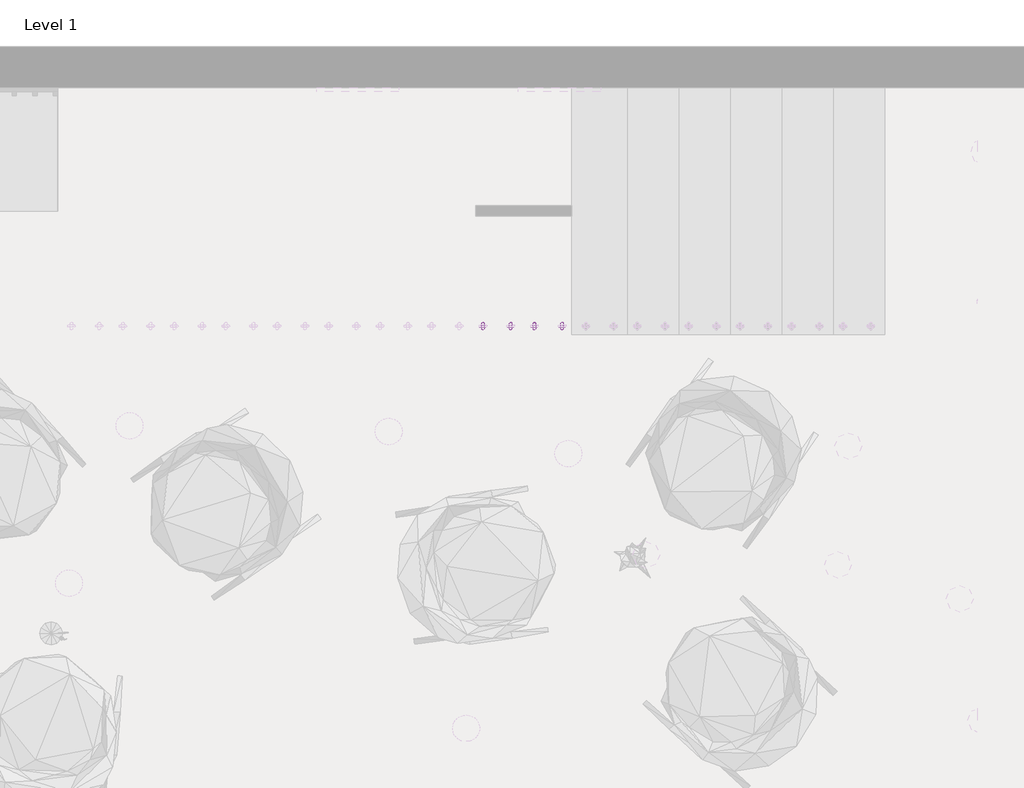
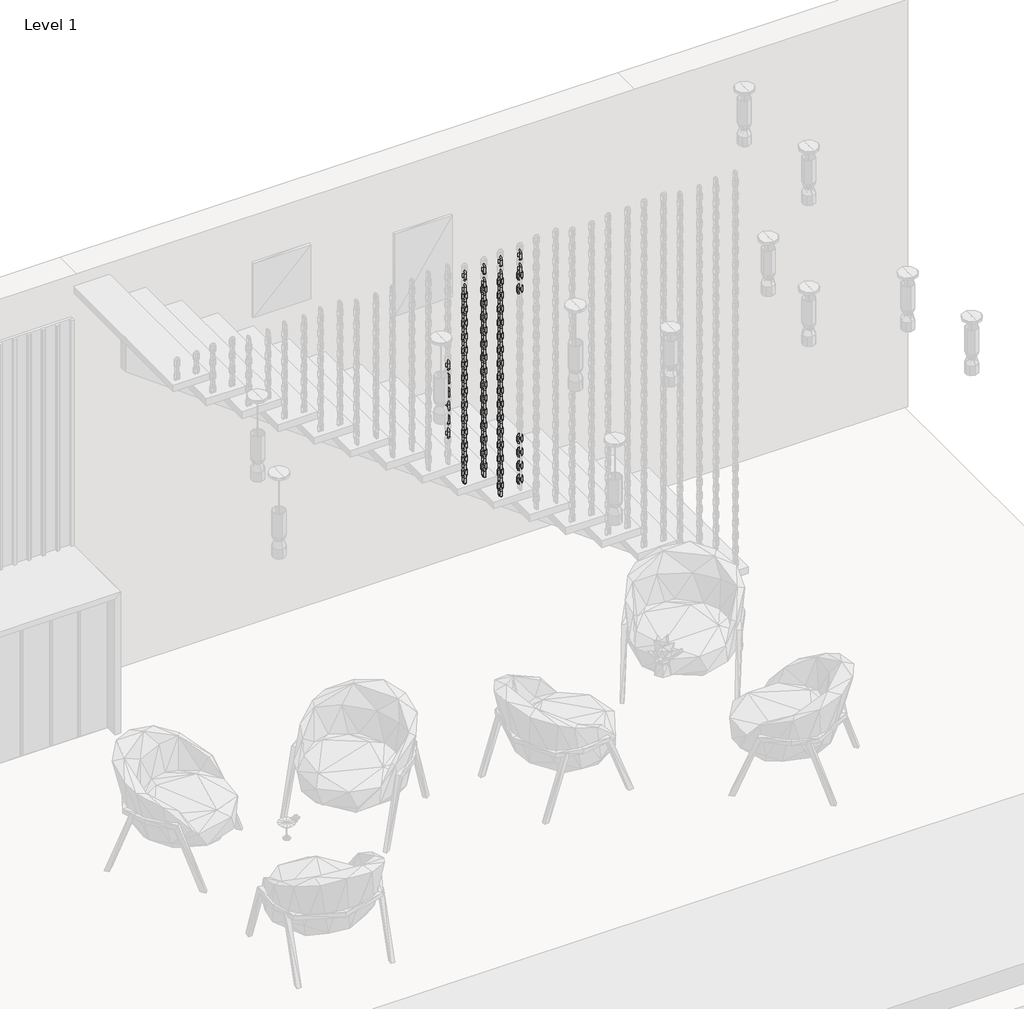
# One storey, part 7 of 12: 108 proxies.
"""IFC4 building model written with IfcOpenShell, lengths in millimetres."""

from ifc_helpers import new_model, si_unit, origin, place, context, project, spatial, transform, mapped, element, save
from components import family1_family1_50133a43, family1_family1_d3af85bb

model = new_model("IFC4")

# Units and contexts
model_context = context("Model", 3, world=origin())
ifc_project = project(units=[si_unit("LENGTHUNIT", "METRE", prefix="MILLI")], contexts=[model_context])

# Site, building, storey
site = spatial("IfcSite", under=ifc_project)
building = spatial("IfcBuilding", under=site)
storey = spatial("IfcBuildingStorey", under=building, Name="Level 1", Elevation=0.0)

# Proxies
placement = place(None, origin())
family1_family1_shape = family1_family1_50133a43(model_context)
element("IfcBuildingElementProxy", 1, Name="Family1 : Family1", ObjectType="Family1 : Family1", at=placement, inside=storey, context=model_context, shape_type="MappedRepresentation", body=[
    mapped(family1_family1_shape, transform((13500.1232124, 1139.760891, 1609.3036265), x_axis=(-0.0331561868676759, 0.0, 0.9994501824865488), y_axis=(-0.9994501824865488, 0.0, -0.0331561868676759), z_axis=(0.0, -1.0, 0.0))),
])
element("IfcBuildingElementProxy", 2, Name="Family1 : Family1", ObjectType="Family1 : Family1", at=placement, inside=storey, context=model_context, shape_type="MappedRepresentation", body=[
    mapped(family1_family1_shape, transform((13500.1232124, 1139.760891, 1709.3036265), x_axis=(-0.0331561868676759, 0.0, 0.9994501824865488), y_axis=(-0.9994501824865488, 0.0, -0.0331561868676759), z_axis=(0.0, -1.0, 0.0))),
])
element("IfcBuildingElementProxy", 3, Name="Family1 : Family1", ObjectType="Family1 : Family1", at=placement, inside=storey, context=model_context, shape_type="MappedRepresentation", body=[
    mapped(family1_family1_shape, transform((13365.1232124, 1139.760891, 409.3036265), x_axis=(-0.0331561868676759, 0.0, 0.9994501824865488), y_axis=(-0.9994501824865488, 0.0, -0.0331561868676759), z_axis=(0.0, -1.0, 0.0))),
])
element("IfcBuildingElementProxy", 4, Name="Family1 : Family1", ObjectType="Family1 : Family1", at=placement, inside=storey, context=model_context, shape_type="MappedRepresentation", body=[
    mapped(family1_family1_shape, transform((13365.1232124, 1139.760891, 509.3036265), x_axis=(-0.0331561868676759, 0.0, 0.9994501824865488), y_axis=(-0.9994501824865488, 0.0, -0.0331561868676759), z_axis=(0.0, -1.0, 0.0))),
])
element("IfcBuildingElementProxy", 5, Name="Family1 : Family1", ObjectType="Family1 : Family1", at=placement, inside=storey, context=model_context, shape_type="MappedRepresentation", body=[
    mapped(family1_family1_shape, transform((13365.1232124, 1139.760891, 609.3036265), x_axis=(-0.0331561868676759, 0.0, 0.9994501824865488), y_axis=(-0.9994501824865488, 0.0, -0.0331561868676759), z_axis=(0.0, -1.0, 0.0))),
])
element("IfcBuildingElementProxy", 6, Name="Family1 : Family1", ObjectType="Family1 : Family1", at=placement, inside=storey, context=model_context, shape_type="MappedRepresentation", body=[
    mapped(family1_family1_shape, transform((13365.1232124, 1139.760891, 709.3036265), x_axis=(-0.0331561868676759, 0.0, 0.9994501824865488), y_axis=(-0.9994501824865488, 0.0, -0.0331561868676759), z_axis=(0.0, -1.0, 0.0))),
])
element("IfcBuildingElementProxy", 7, Name="Family1 : Family1", ObjectType="Family1 : Family1", at=placement, inside=storey, context=model_context, shape_type="MappedRepresentation", body=[
    mapped(family1_family1_shape, transform((13365.1232124, 1139.760891, 809.3036265), x_axis=(-0.0331561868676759, 0.0, 0.9994501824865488), y_axis=(-0.9994501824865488, 0.0, -0.0331561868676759), z_axis=(0.0, -1.0, 0.0))),
])
element("IfcBuildingElementProxy", 8, Name="Family1 : Family1", ObjectType="Family1 : Family1", at=placement, inside=storey, context=model_context, shape_type="MappedRepresentation", body=[
    mapped(family1_family1_shape, transform((13365.1232124, 1139.760891, 909.3036265), x_axis=(-0.0331561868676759, 0.0, 0.9994501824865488), y_axis=(-0.9994501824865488, 0.0, -0.0331561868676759), z_axis=(0.0, -1.0, 0.0))),
])
element("IfcBuildingElementProxy", 9, Name="Family1 : Family1", ObjectType="Family1 : Family1", at=placement, inside=storey, context=model_context, shape_type="MappedRepresentation", body=[
    mapped(family1_family1_shape, transform((13365.1232124, 1139.760891, 1009.3036265), x_axis=(-0.0331561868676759, 0.0, 0.9994501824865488), y_axis=(-0.9994501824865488, 0.0, -0.0331561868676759), z_axis=(0.0, -1.0, 0.0))),
])
element("IfcBuildingElementProxy", 10, Name="Family1 : Family1", ObjectType="Family1 : Family1", at=placement, inside=storey, context=model_context, shape_type="MappedRepresentation", body=[
    mapped(family1_family1_shape, transform((13365.1232124, 1139.760891, 1109.3036265), x_axis=(-0.03315618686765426, 0.0, 0.9994501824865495), y_axis=(-0.9994501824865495, 0.0, -0.03315618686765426), z_axis=(0.0, -1.0, 0.0))),
])
element("IfcBuildingElementProxy", 11, Name="Family1 : Family1", ObjectType="Family1 : Family1", at=placement, inside=storey, context=model_context, shape_type="MappedRepresentation", body=[
    mapped(family1_family1_shape, transform((13365.1232124, 1139.760891, 1209.3036265), x_axis=(-0.0331561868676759, 0.0, 0.9994501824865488), y_axis=(-0.9994501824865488, 0.0, -0.0331561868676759), z_axis=(0.0, -1.0, 0.0))),
])
element("IfcBuildingElementProxy", 12, Name="Family1 : Family1", ObjectType="Family1 : Family1", at=placement, inside=storey, context=model_context, shape_type="MappedRepresentation", body=[
    mapped(family1_family1_shape, transform((13365.1232124, 1139.760891, 1309.3036265), x_axis=(-0.0331561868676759, 0.0, 0.9994501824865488), y_axis=(-0.9994501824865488, 0.0, -0.0331561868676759), z_axis=(0.0, -1.0, 0.0))),
])
element("IfcBuildingElementProxy", 13, Name="Family1 : Family1", ObjectType="Family1 : Family1", at=placement, inside=storey, context=model_context, shape_type="MappedRepresentation", body=[
    mapped(family1_family1_shape, transform((13365.1232124, 1139.760891, 309.3036265), x_axis=(-0.0331561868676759, 0.0, 0.9994501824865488), y_axis=(-0.9994501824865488, 0.0, -0.0331561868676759), z_axis=(0.0, -1.0, 0.0))),
])
element("IfcBuildingElementProxy", 14, Name="Family1 : Family1", ObjectType="Family1 : Family1", at=placement, inside=storey, context=model_context, shape_type="MappedRepresentation", body=[
    mapped(family1_family1_shape, transform((13365.1232124, 1139.760891, 209.3036265), x_axis=(-0.03315618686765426, 0.0, 0.9994501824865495), y_axis=(-0.9994501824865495, 0.0, -0.03315618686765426), z_axis=(0.0, -1.0, 0.0))),
])
element("IfcBuildingElementProxy", 15, Name="Family1 : Family1", ObjectType="Family1 : Family1", at=placement, inside=storey, context=model_context, shape_type="MappedRepresentation", body=[
    mapped(family1_family1_shape, transform((13365.1232124, 1139.760891, 109.3036265), x_axis=(-0.0331561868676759, 0.0, 0.9994501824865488), y_axis=(-0.9994501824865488, 0.0, -0.0331561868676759), z_axis=(0.0, -1.0, 0.0))),
])
element("IfcBuildingElementProxy", 16, Name="Family1 : Family1", ObjectType="Family1 : Family1", at=placement, inside=storey, context=model_context, shape_type="MappedRepresentation", body=[
    mapped(family1_family1_shape, transform((13365.1232124, 1139.760891, 9.3036265), x_axis=(-0.0331561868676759, 0.0, 0.9994501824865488), y_axis=(-0.9994501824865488, 0.0, -0.0331561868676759), z_axis=(0.0, -1.0, 0.0))),
])
element("IfcBuildingElementProxy", 17, Name="Family1 : Family1", ObjectType="Family1 : Family1", at=placement, inside=storey, context=model_context, shape_type="MappedRepresentation", body=[
    mapped(family1_family1_shape, transform((13365.1232124, 1139.760891, 1409.3036265), x_axis=(-0.0331561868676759, 0.0, 0.9994501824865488), y_axis=(-0.9994501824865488, 0.0, -0.0331561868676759), z_axis=(0.0, -1.0, 0.0))),
])
element("IfcBuildingElementProxy", 18, Name="Family1 : Family1", ObjectType="Family1 : Family1", at=placement, inside=storey, context=model_context, shape_type="MappedRepresentation", body=[
    mapped(family1_family1_shape, transform((13365.1232124, 1139.760891, 1509.3036265), x_axis=(-0.0331561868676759, 0.0, 0.9994501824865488), y_axis=(-0.9994501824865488, 0.0, -0.0331561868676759), z_axis=(0.0, -1.0, 0.0))),
])
element("IfcBuildingElementProxy", 19, Name="Family1 : Family1", ObjectType="Family1 : Family1", at=placement, inside=storey, context=model_context, shape_type="MappedRepresentation", body=[
    mapped(family1_family1_shape, transform((13365.1232124, 1139.760891, 1609.3036265), x_axis=(-0.0331561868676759, 0.0, 0.9994501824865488), y_axis=(-0.9994501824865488, 0.0, -0.0331561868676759), z_axis=(0.0, -1.0, 0.0))),
])
element("IfcBuildingElementProxy", 20, Name="Family1 : Family1", ObjectType="Family1 : Family1", at=placement, inside=storey, context=model_context, shape_type="MappedRepresentation", body=[
    mapped(family1_family1_shape, transform((13365.1232124, 1139.760891, 1709.3036265), x_axis=(-0.0331561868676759, 0.0, 0.9994501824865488), y_axis=(-0.9994501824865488, 0.0, -0.0331561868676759), z_axis=(0.0, -1.0, 0.0))),
])
element("IfcBuildingElementProxy", 21, Name="Family1 : Family1", ObjectType="Family1 : Family1", at=placement, inside=storey, context=model_context, shape_type="MappedRepresentation", body=[
    mapped(family1_family1_shape, transform((13250.1232124, 1139.760891, 491.6565677), x_axis=(-0.033156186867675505, 0.0, 0.9994501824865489), y_axis=(-0.9994501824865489, 0.0, -0.033156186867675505), z_axis=(0.0, -1.0, 0.0))),
])
element("IfcBuildingElementProxy", 22, Name="Family1 : Family1", ObjectType="Family1 : Family1", at=placement, inside=storey, context=model_context, shape_type="MappedRepresentation", body=[
    mapped(family1_family1_shape, transform((13250.1232124, 1139.760891, 591.6565677), x_axis=(-0.033156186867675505, 0.0, 0.9994501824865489), y_axis=(-0.9994501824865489, 0.0, -0.033156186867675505), z_axis=(0.0, -1.0, 0.0))),
])
element("IfcBuildingElementProxy", 23, Name="Family1 : Family1", ObjectType="Family1 : Family1", at=placement, inside=storey, context=model_context, shape_type="MappedRepresentation", body=[
    mapped(family1_family1_shape, transform((13250.1232124, 1139.760891, 691.6565677), x_axis=(-0.033156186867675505, 0.0, 0.9994501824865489), y_axis=(-0.9994501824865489, 0.0, -0.033156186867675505), z_axis=(0.0, -1.0, 0.0))),
])
element("IfcBuildingElementProxy", 24, Name="Family1 : Family1", ObjectType="Family1 : Family1", at=placement, inside=storey, context=model_context, shape_type="MappedRepresentation", body=[
    mapped(family1_family1_shape, transform((13250.1232124, 1139.760891, 791.6565677), x_axis=(-0.033156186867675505, 0.0, 0.9994501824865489), y_axis=(-0.9994501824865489, 0.0, -0.033156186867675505), z_axis=(0.0, -1.0, 0.0))),
])
element("IfcBuildingElementProxy", 25, Name="Family1 : Family1", ObjectType="Family1 : Family1", at=placement, inside=storey, context=model_context, shape_type="MappedRepresentation", body=[
    mapped(family1_family1_shape, transform((13250.1232124, 1139.760891, 891.6565677), x_axis=(-0.033156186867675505, 0.0, 0.9994501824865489), y_axis=(-0.9994501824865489, 0.0, -0.033156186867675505), z_axis=(0.0, -1.0, 0.0))),
])
element("IfcBuildingElementProxy", 26, Name="Family1 : Family1", ObjectType="Family1 : Family1", at=placement, inside=storey, context=model_context, shape_type="MappedRepresentation", body=[
    mapped(family1_family1_shape, transform((13250.1232124, 1139.760891, 991.6565677), x_axis=(-0.03315618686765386, 0.0, 0.9994501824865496), y_axis=(-0.9994501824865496, 0.0, -0.03315618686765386), z_axis=(0.0, -1.0, 0.0))),
])
element("IfcBuildingElementProxy", 27, Name="Family1 : Family1", ObjectType="Family1 : Family1", at=placement, inside=storey, context=model_context, shape_type="MappedRepresentation", body=[
    mapped(family1_family1_shape, transform((13250.1232124, 1139.760891, 1091.6565677), x_axis=(-0.033156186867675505, 0.0, 0.9994501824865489), y_axis=(-0.9994501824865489, 0.0, -0.033156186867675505), z_axis=(0.0, -1.0, 0.0))),
])
element("IfcBuildingElementProxy", 28, Name="Family1 : Family1", ObjectType="Family1 : Family1", at=placement, inside=storey, context=model_context, shape_type="MappedRepresentation", body=[
    mapped(family1_family1_shape, transform((13250.1232124, 1139.760891, 1191.6565677), x_axis=(-0.033156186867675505, 0.0, 0.9994501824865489), y_axis=(-0.9994501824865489, 0.0, -0.033156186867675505), z_axis=(0.0, -1.0, 0.0))),
])
element("IfcBuildingElementProxy", 29, Name="Family1 : Family1", ObjectType="Family1 : Family1", at=placement, inside=storey, context=model_context, shape_type="MappedRepresentation", body=[
    mapped(family1_family1_shape, transform((13250.1232124, 1139.760891, 1291.6565677), x_axis=(-0.033156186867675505, 0.0, 0.9994501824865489), y_axis=(-0.9994501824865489, 0.0, -0.033156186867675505), z_axis=(0.0, -1.0, 0.0))),
])
element("IfcBuildingElementProxy", 30, Name="Family1 : Family1", ObjectType="Family1 : Family1", at=placement, inside=storey, context=model_context, shape_type="MappedRepresentation", body=[
    mapped(family1_family1_shape, transform((13250.1232124, 1139.760891, 1391.6565677), x_axis=(-0.033156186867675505, 0.0, 0.9994501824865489), y_axis=(-0.9994501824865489, 0.0, -0.033156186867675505), z_axis=(0.0, -1.0, 0.0))),
])
element("IfcBuildingElementProxy", 31, Name="Family1 : Family1", ObjectType="Family1 : Family1", at=placement, inside=storey, context=model_context, shape_type="MappedRepresentation", body=[
    mapped(family1_family1_shape, transform((13250.1232124, 1139.760891, 391.6565677), x_axis=(-0.033156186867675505, 0.0, 0.9994501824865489), y_axis=(-0.9994501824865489, 0.0, -0.033156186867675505), z_axis=(0.0, -1.0, 0.0))),
])
element("IfcBuildingElementProxy", 32, Name="Family1 : Family1", ObjectType="Family1 : Family1", at=placement, inside=storey, context=model_context, shape_type="MappedRepresentation", body=[
    mapped(family1_family1_shape, transform((13250.1232124, 1139.760891, 291.6565677), x_axis=(-0.033156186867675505, 0.0, 0.9994501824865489), y_axis=(-0.9994501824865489, 0.0, -0.033156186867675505), z_axis=(0.0, -1.0, 0.0))),
])
element("IfcBuildingElementProxy", 33, Name="Family1 : Family1", ObjectType="Family1 : Family1", at=placement, inside=storey, context=model_context, shape_type="MappedRepresentation", body=[
    mapped(family1_family1_shape, transform((13250.1232124, 1139.760891, 191.6565677), x_axis=(-0.033156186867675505, 0.0, 0.9994501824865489), y_axis=(-0.9994501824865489, 0.0, -0.033156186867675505), z_axis=(0.0, -1.0, 0.0))),
])
element("IfcBuildingElementProxy", 34, Name="Family1 : Family1", ObjectType="Family1 : Family1", at=placement, inside=storey, context=model_context, shape_type="MappedRepresentation", body=[
    mapped(family1_family1_shape, transform((13250.1232124, 1139.760891, 1491.6565677), x_axis=(-0.033156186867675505, 0.0, 0.9994501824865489), y_axis=(-0.9994501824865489, 0.0, -0.033156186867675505), z_axis=(0.0, -1.0, 0.0))),
])
element("IfcBuildingElementProxy", 35, Name="Family1 : Family1", ObjectType="Family1 : Family1", at=placement, inside=storey, context=model_context, shape_type="MappedRepresentation", body=[
    mapped(family1_family1_shape, transform((13250.1232124, 1139.760891, 1591.6565677), x_axis=(-0.033156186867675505, 0.0, 0.9994501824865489), y_axis=(-0.9994501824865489, 0.0, -0.033156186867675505), z_axis=(0.0, -1.0, 0.0))),
])
element("IfcBuildingElementProxy", 36, Name="Family1 : Family1", ObjectType="Family1 : Family1", at=placement, inside=storey, context=model_context, shape_type="MappedRepresentation", body=[
    mapped(family1_family1_shape, transform((13250.1232124, 1139.760891, 1691.6565677), x_axis=(-0.033156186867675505, 0.0, 0.9994501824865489), y_axis=(-0.9994501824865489, 0.0, -0.033156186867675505), z_axis=(0.0, -1.0, 0.0))),
])
element("IfcBuildingElementProxy", 37, Name="Family1 : Family1", ObjectType="Family1 : Family1", at=placement, inside=storey, context=model_context, shape_type="MappedRepresentation", body=[
    mapped(family1_family1_shape, transform((13115.1232124, 1139.760891, 491.6565677), x_axis=(-0.033156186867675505, 0.0, 0.9994501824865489), y_axis=(-0.9994501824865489, 0.0, -0.033156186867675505), z_axis=(0.0, -1.0, 0.0))),
])
element("IfcBuildingElementProxy", 38, Name="Family1 : Family1", ObjectType="Family1 : Family1", at=placement, inside=storey, context=model_context, shape_type="MappedRepresentation", body=[
    mapped(family1_family1_shape, transform((13115.1232124, 1139.760891, 591.6565677), x_axis=(-0.033156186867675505, 0.0, 0.9994501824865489), y_axis=(-0.9994501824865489, 0.0, -0.033156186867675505), z_axis=(0.0, -1.0, 0.0))),
])
element("IfcBuildingElementProxy", 39, Name="Family1 : Family1", ObjectType="Family1 : Family1", at=placement, inside=storey, context=model_context, shape_type="MappedRepresentation", body=[
    mapped(family1_family1_shape, transform((13115.1232124, 1139.760891, 691.6565677), x_axis=(-0.033156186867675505, 0.0, 0.9994501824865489), y_axis=(-0.9994501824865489, 0.0, -0.033156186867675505), z_axis=(0.0, -1.0, 0.0))),
])
element("IfcBuildingElementProxy", 40, Name="Family1 : Family1", ObjectType="Family1 : Family1", at=placement, inside=storey, context=model_context, shape_type="MappedRepresentation", body=[
    mapped(family1_family1_shape, transform((13115.1232124, 1139.760891, 791.6565677), x_axis=(-0.033156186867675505, 0.0, 0.9994501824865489), y_axis=(-0.9994501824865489, 0.0, -0.033156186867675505), z_axis=(0.0, -1.0, 0.0))),
])
element("IfcBuildingElementProxy", 41, Name="Family1 : Family1", ObjectType="Family1 : Family1", at=placement, inside=storey, context=model_context, shape_type="MappedRepresentation", body=[
    mapped(family1_family1_shape, transform((13115.1232124, 1139.760891, 891.6565677), x_axis=(-0.033156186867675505, 0.0, 0.9994501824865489), y_axis=(-0.9994501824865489, 0.0, -0.033156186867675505), z_axis=(0.0, -1.0, 0.0))),
])
element("IfcBuildingElementProxy", 42, Name="Family1 : Family1", ObjectType="Family1 : Family1", at=placement, inside=storey, context=model_context, shape_type="MappedRepresentation", body=[
    mapped(family1_family1_shape, transform((13115.1232124, 1139.760891, 991.6565677), x_axis=(-0.03315618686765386, 0.0, 0.9994501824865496), y_axis=(-0.9994501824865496, 0.0, -0.03315618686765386), z_axis=(0.0, -1.0, 0.0))),
])
element("IfcBuildingElementProxy", 43, Name="Family1 : Family1", ObjectType="Family1 : Family1", at=placement, inside=storey, context=model_context, shape_type="MappedRepresentation", body=[
    mapped(family1_family1_shape, transform((13115.1232124, 1139.760891, 1091.6565677), x_axis=(-0.033156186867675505, 0.0, 0.9994501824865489), y_axis=(-0.9994501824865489, 0.0, -0.033156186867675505), z_axis=(0.0, -1.0, 0.0))),
])
element("IfcBuildingElementProxy", 44, Name="Family1 : Family1", ObjectType="Family1 : Family1", at=placement, inside=storey, context=model_context, shape_type="MappedRepresentation", body=[
    mapped(family1_family1_shape, transform((13115.1232124, 1139.760891, 1191.6565677), x_axis=(-0.033156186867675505, 0.0, 0.9994501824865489), y_axis=(-0.9994501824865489, 0.0, -0.033156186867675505), z_axis=(0.0, -1.0, 0.0))),
])
element("IfcBuildingElementProxy", 45, Name="Family1 : Family1", ObjectType="Family1 : Family1", at=placement, inside=storey, context=model_context, shape_type="MappedRepresentation", body=[
    mapped(family1_family1_shape, transform((13115.1232124, 1139.760891, 1291.6565677), x_axis=(-0.033156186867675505, 0.0, 0.9994501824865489), y_axis=(-0.9994501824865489, 0.0, -0.033156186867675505), z_axis=(0.0, -1.0, 0.0))),
])
element("IfcBuildingElementProxy", 46, Name="Family1 : Family1", ObjectType="Family1 : Family1", at=placement, inside=storey, context=model_context, shape_type="MappedRepresentation", body=[
    mapped(family1_family1_shape, transform((13115.1232124, 1139.760891, 1391.6565677), x_axis=(-0.033156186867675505, 0.0, 0.9994501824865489), y_axis=(-0.9994501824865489, 0.0, -0.033156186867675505), z_axis=(0.0, -1.0, 0.0))),
])
element("IfcBuildingElementProxy", 47, Name="Family1 : Family1", ObjectType="Family1 : Family1", at=placement, inside=storey, context=model_context, shape_type="MappedRepresentation", body=[
    mapped(family1_family1_shape, transform((13115.1232124, 1139.760891, 391.6565677), x_axis=(-0.033156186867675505, 0.0, 0.9994501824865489), y_axis=(-0.9994501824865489, 0.0, -0.033156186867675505), z_axis=(0.0, -1.0, 0.0))),
])
element("IfcBuildingElementProxy", 48, Name="Family1 : Family1", ObjectType="Family1 : Family1", at=placement, inside=storey, context=model_context, shape_type="MappedRepresentation", body=[
    mapped(family1_family1_shape, transform((13115.1232124, 1139.760891, 291.6565677), x_axis=(-0.033156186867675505, 0.0, 0.9994501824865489), y_axis=(-0.9994501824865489, 0.0, -0.033156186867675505), z_axis=(0.0, -1.0, 0.0))),
])
element("IfcBuildingElementProxy", 49, Name="Family1 : Family1", ObjectType="Family1 : Family1", at=placement, inside=storey, context=model_context, shape_type="MappedRepresentation", body=[
    mapped(family1_family1_shape, transform((13115.1232124, 1139.760891, 191.6565677), x_axis=(-0.033156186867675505, 0.0, 0.9994501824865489), y_axis=(-0.9994501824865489, 0.0, -0.033156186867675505), z_axis=(0.0, -1.0, 0.0))),
])
element("IfcBuildingElementProxy", 50, Name="Family1 : Family1", ObjectType="Family1 : Family1", at=placement, inside=storey, context=model_context, shape_type="MappedRepresentation", body=[
    mapped(family1_family1_shape, transform((13115.1232124, 1139.760891, 1491.6565677), x_axis=(-0.033156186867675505, 0.0, 0.9994501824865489), y_axis=(-0.9994501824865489, 0.0, -0.033156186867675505), z_axis=(0.0, -1.0, 0.0))),
])
element("IfcBuildingElementProxy", 51, Name="Family1 : Family1", ObjectType="Family1 : Family1", at=placement, inside=storey, context=model_context, shape_type="MappedRepresentation", body=[
    mapped(family1_family1_shape, transform((13115.1232124, 1139.760891, 1591.6565677), x_axis=(-0.033156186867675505, 0.0, 0.9994501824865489), y_axis=(-0.9994501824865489, 0.0, -0.033156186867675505), z_axis=(0.0, -1.0, 0.0))),
])
element("IfcBuildingElementProxy", 52, Name="Family1 : Family1", ObjectType="Family1 : Family1", at=placement, inside=storey, context=model_context, shape_type="MappedRepresentation", body=[
    mapped(family1_family1_shape, transform((13115.1232124, 1139.760891, 1691.6565677), x_axis=(-0.033156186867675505, 0.0, 0.9994501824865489), y_axis=(-0.9994501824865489, 0.0, -0.033156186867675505), z_axis=(0.0, -1.0, 0.0))),
])
element("IfcBuildingElementProxy", 53, Name="Family1 : Family1", ObjectType="Family1 : Family1", at=placement, inside=storey, context=model_context, shape_type="MappedRepresentation", body=[
    mapped(family1_family1_shape, transform((13000.1232124, 1139.760891, 574.0095089), x_axis=(-0.03315618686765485, 0.0, 0.9994501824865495), y_axis=(-0.9994501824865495, 0.0, -0.03315618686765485), z_axis=(0.0, -1.0, 0.0))),
])
element("IfcBuildingElementProxy", 54, Name="Family1 : Family1", ObjectType="Family1 : Family1", at=placement, inside=storey, context=model_context, shape_type="MappedRepresentation", body=[
    mapped(family1_family1_shape, transform((13000.1232124, 1139.760891, 674.0095089), x_axis=(-0.03315618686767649, 0.0, 0.9994501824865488), y_axis=(-0.9994501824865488, 0.0, -0.03315618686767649), z_axis=(0.0, -1.0, 0.0))),
])
element("IfcBuildingElementProxy", 55, Name="Family1 : Family1", ObjectType="Family1 : Family1", at=placement, inside=storey, context=model_context, shape_type="MappedRepresentation", body=[
    mapped(family1_family1_shape, transform((13000.1232124, 1139.760891, 774.0095089), x_axis=(-0.03315618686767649, 0.0, 0.9994501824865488), y_axis=(-0.9994501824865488, 0.0, -0.03315618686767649), z_axis=(0.0, -1.0, 0.0))),
])
element("IfcBuildingElementProxy", 56, Name="Family1 : Family1", ObjectType="Family1 : Family1", at=placement, inside=storey, context=model_context, shape_type="MappedRepresentation", body=[
    mapped(family1_family1_shape, transform((13000.1232124, 1139.760891, 874.0095089), x_axis=(-0.03315618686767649, 0.0, 0.9994501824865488), y_axis=(-0.9994501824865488, 0.0, -0.03315618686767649), z_axis=(0.0, -1.0, 0.0))),
])
element("IfcBuildingElementProxy", 57, Name="Family1 : Family1", ObjectType="Family1 : Family1", at=placement, inside=storey, context=model_context, shape_type="MappedRepresentation", body=[
    mapped(family1_family1_shape, transform((13000.1232124, 1139.760891, 974.0095089), x_axis=(-0.03315618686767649, 0.0, 0.9994501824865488), y_axis=(-0.9994501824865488, 0.0, -0.03315618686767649), z_axis=(0.0, -1.0, 0.0))),
])
element("IfcBuildingElementProxy", 58, Name="Family1 : Family1", ObjectType="Family1 : Family1", at=placement, inside=storey, context=model_context, shape_type="MappedRepresentation", body=[
    mapped(family1_family1_shape, transform((13000.1232124, 1139.760891, 1074.0095089), x_axis=(-0.03315618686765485, 0.0, 0.9994501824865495), y_axis=(-0.9994501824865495, 0.0, -0.03315618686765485), z_axis=(0.0, -1.0, 0.0))),
])
family1_family1_2_shape = family1_family1_d3af85bb(model_context)
element("IfcBuildingElementProxy", 59, Name="Family1 : Family1", ObjectType="Family1 : Family1", at=placement, inside=storey, context=model_context, shape_type="MappedRepresentation", body=[
    mapped(family1_family1_2_shape, transform((13500.1232124, 1139.760891, 359.3036265), x_axis=(-0.0331561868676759, 0.0, 0.9994501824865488), y_axis=(-0.9994501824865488, 0.0, -0.0331561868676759), z_axis=(0.0, -1.0, 0.0))),
])
element("IfcBuildingElementProxy", 60, Name="Family1 : Family1", ObjectType="Family1 : Family1", at=placement, inside=storey, context=model_context, shape_type="MappedRepresentation", body=[
    mapped(family1_family1_2_shape, transform((13500.1232124, 1139.760891, 259.3036265), x_axis=(-0.0331561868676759, 0.0, 0.9994501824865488), y_axis=(-0.9994501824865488, 0.0, -0.0331561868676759), z_axis=(0.0, -1.0, 0.0))),
])
element("IfcBuildingElementProxy", 61, Name="Family1 : Family1", ObjectType="Family1 : Family1", at=placement, inside=storey, context=model_context, shape_type="MappedRepresentation", body=[
    mapped(family1_family1_2_shape, transform((13500.1232124, 1139.760891, 159.3036265), x_axis=(-0.0331561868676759, 0.0, 0.9994501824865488), y_axis=(-0.9994501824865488, 0.0, -0.0331561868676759), z_axis=(0.0, -1.0, 0.0))),
])
element("IfcBuildingElementProxy", 62, Name="Family1 : Family1", ObjectType="Family1 : Family1", at=placement, inside=storey, context=model_context, shape_type="MappedRepresentation", body=[
    mapped(family1_family1_2_shape, transform((13500.1232124, 1139.760891, 59.3036265), x_axis=(-0.0331561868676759, 0.0, 0.9994501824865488), y_axis=(-0.9994501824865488, 0.0, -0.0331561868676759), z_axis=(0.0, -1.0, 0.0))),
])
element("IfcBuildingElementProxy", 63, Name="Family1 : Family1", ObjectType="Family1 : Family1", at=placement, inside=storey, context=model_context, shape_type="MappedRepresentation", body=[
    mapped(family1_family1_2_shape, transform((13500.1232124, 1139.760891, 1459.3036265), x_axis=(-0.0331561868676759, 0.0, 0.9994501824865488), y_axis=(-0.9994501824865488, 0.0, -0.0331561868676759), z_axis=(0.0, -1.0, 0.0))),
])
element("IfcBuildingElementProxy", 64, Name="Family1 : Family1", ObjectType="Family1 : Family1", at=placement, inside=storey, context=model_context, shape_type="MappedRepresentation", body=[
    mapped(family1_family1_2_shape, transform((13500.1232124, 1139.760891, 1559.3036265), x_axis=(-0.03315618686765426, 0.0, 0.9994501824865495), y_axis=(-0.9994501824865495, 0.0, -0.03315618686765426), z_axis=(0.0, -1.0, 0.0))),
])
element("IfcBuildingElementProxy", 65, Name="Family1 : Family1", ObjectType="Family1 : Family1", at=placement, inside=storey, context=model_context, shape_type="MappedRepresentation", body=[
    mapped(family1_family1_2_shape, transform((13365.1232124, 1139.760891, 459.3036265), x_axis=(-0.0331561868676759, 0.0, 0.9994501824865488), y_axis=(-0.9994501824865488, 0.0, -0.0331561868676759), z_axis=(0.0, -1.0, 0.0))),
])
element("IfcBuildingElementProxy", 66, Name="Family1 : Family1", ObjectType="Family1 : Family1", at=placement, inside=storey, context=model_context, shape_type="MappedRepresentation", body=[
    mapped(family1_family1_2_shape, transform((13365.1232124, 1139.760891, 559.3036265), x_axis=(-0.0331561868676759, 0.0, 0.9994501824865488), y_axis=(-0.9994501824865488, 0.0, -0.0331561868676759), z_axis=(0.0, -1.0, 0.0))),
])
element("IfcBuildingElementProxy", 67, Name="Family1 : Family1", ObjectType="Family1 : Family1", at=placement, inside=storey, context=model_context, shape_type="MappedRepresentation", body=[
    mapped(family1_family1_2_shape, transform((13365.1232124, 1139.760891, 659.3036265), x_axis=(-0.03315618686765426, 0.0, 0.9994501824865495), y_axis=(-0.9994501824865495, 0.0, -0.03315618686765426), z_axis=(0.0, -1.0, 0.0))),
])
element("IfcBuildingElementProxy", 68, Name="Family1 : Family1", ObjectType="Family1 : Family1", at=placement, inside=storey, context=model_context, shape_type="MappedRepresentation", body=[
    mapped(family1_family1_2_shape, transform((13365.1232124, 1139.760891, 759.3036265), x_axis=(-0.0331561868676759, 0.0, 0.9994501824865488), y_axis=(-0.9994501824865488, 0.0, -0.0331561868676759), z_axis=(0.0, -1.0, 0.0))),
])
element("IfcBuildingElementProxy", 69, Name="Family1 : Family1", ObjectType="Family1 : Family1", at=placement, inside=storey, context=model_context, shape_type="MappedRepresentation", body=[
    mapped(family1_family1_2_shape, transform((13365.1232124, 1139.760891, 859.3036265), x_axis=(-0.0331561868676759, 0.0, 0.9994501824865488), y_axis=(-0.9994501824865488, 0.0, -0.0331561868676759), z_axis=(0.0, -1.0, 0.0))),
])
element("IfcBuildingElementProxy", 70, Name="Family1 : Family1", ObjectType="Family1 : Family1", at=placement, inside=storey, context=model_context, shape_type="MappedRepresentation", body=[
    mapped(family1_family1_2_shape, transform((13365.1232124, 1139.760891, 959.3036265), x_axis=(-0.0331561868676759, 0.0, 0.9994501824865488), y_axis=(-0.9994501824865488, 0.0, -0.0331561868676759), z_axis=(0.0, -1.0, 0.0))),
])
element("IfcBuildingElementProxy", 71, Name="Family1 : Family1", ObjectType="Family1 : Family1", at=placement, inside=storey, context=model_context, shape_type="MappedRepresentation", body=[
    mapped(family1_family1_2_shape, transform((13365.1232124, 1139.760891, 1059.3036265), x_axis=(-0.0331561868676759, 0.0, 0.9994501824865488), y_axis=(-0.9994501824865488, 0.0, -0.0331561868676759), z_axis=(0.0, -1.0, 0.0))),
])
element("IfcBuildingElementProxy", 72, Name="Family1 : Family1", ObjectType="Family1 : Family1", at=placement, inside=storey, context=model_context, shape_type="MappedRepresentation", body=[
    mapped(family1_family1_2_shape, transform((13365.1232124, 1139.760891, 1159.3036265), x_axis=(-0.0331561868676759, 0.0, 0.9994501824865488), y_axis=(-0.9994501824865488, 0.0, -0.0331561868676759), z_axis=(0.0, -1.0, 0.0))),
])
element("IfcBuildingElementProxy", 73, Name="Family1 : Family1", ObjectType="Family1 : Family1", at=placement, inside=storey, context=model_context, shape_type="MappedRepresentation", body=[
    mapped(family1_family1_2_shape, transform((13365.1232124, 1139.760891, 1259.3036265), x_axis=(-0.0331561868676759, 0.0, 0.9994501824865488), y_axis=(-0.9994501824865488, 0.0, -0.0331561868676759), z_axis=(0.0, -1.0, 0.0))),
])
element("IfcBuildingElementProxy", 74, Name="Family1 : Family1", ObjectType="Family1 : Family1", at=placement, inside=storey, context=model_context, shape_type="MappedRepresentation", body=[
    mapped(family1_family1_2_shape, transform((13365.1232124, 1139.760891, 1359.3036265), x_axis=(-0.0331561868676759, 0.0, 0.9994501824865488), y_axis=(-0.9994501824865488, 0.0, -0.0331561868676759), z_axis=(0.0, -1.0, 0.0))),
])
element("IfcBuildingElementProxy", 75, Name="Family1 : Family1", ObjectType="Family1 : Family1", at=placement, inside=storey, context=model_context, shape_type="MappedRepresentation", body=[
    mapped(family1_family1_2_shape, transform((13365.1232124, 1139.760891, 359.3036265), x_axis=(-0.0331561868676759, 0.0, 0.9994501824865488), y_axis=(-0.9994501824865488, 0.0, -0.0331561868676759), z_axis=(0.0, -1.0, 0.0))),
])
element("IfcBuildingElementProxy", 76, Name="Family1 : Family1", ObjectType="Family1 : Family1", at=placement, inside=storey, context=model_context, shape_type="MappedRepresentation", body=[
    mapped(family1_family1_2_shape, transform((13365.1232124, 1139.760891, 259.3036265), x_axis=(-0.0331561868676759, 0.0, 0.9994501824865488), y_axis=(-0.9994501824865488, 0.0, -0.0331561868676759), z_axis=(0.0, -1.0, 0.0))),
])
element("IfcBuildingElementProxy", 77, Name="Family1 : Family1", ObjectType="Family1 : Family1", at=placement, inside=storey, context=model_context, shape_type="MappedRepresentation", body=[
    mapped(family1_family1_2_shape, transform((13365.1232124, 1139.760891, 159.3036265), x_axis=(-0.0331561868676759, 0.0, 0.9994501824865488), y_axis=(-0.9994501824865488, 0.0, -0.0331561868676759), z_axis=(0.0, -1.0, 0.0))),
])
element("IfcBuildingElementProxy", 78, Name="Family1 : Family1", ObjectType="Family1 : Family1", at=placement, inside=storey, context=model_context, shape_type="MappedRepresentation", body=[
    mapped(family1_family1_2_shape, transform((13365.1232124, 1139.760891, 59.3036265), x_axis=(-0.0331561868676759, 0.0, 0.9994501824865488), y_axis=(-0.9994501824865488, 0.0, -0.0331561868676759), z_axis=(0.0, -1.0, 0.0))),
])
element("IfcBuildingElementProxy", 79, Name="Family1 : Family1", ObjectType="Family1 : Family1", at=placement, inside=storey, context=model_context, shape_type="MappedRepresentation", body=[
    mapped(family1_family1_2_shape, transform((13365.1232124, 1139.760891, 1459.3036265), x_axis=(-0.0331561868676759, 0.0, 0.9994501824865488), y_axis=(-0.9994501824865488, 0.0, -0.0331561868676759), z_axis=(0.0, -1.0, 0.0))),
])
element("IfcBuildingElementProxy", 80, Name="Family1 : Family1", ObjectType="Family1 : Family1", at=placement, inside=storey, context=model_context, shape_type="MappedRepresentation", body=[
    mapped(family1_family1_2_shape, transform((13365.1232124, 1139.760891, 1559.3036265), x_axis=(-0.03315618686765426, 0.0, 0.9994501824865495), y_axis=(-0.9994501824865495, 0.0, -0.03315618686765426), z_axis=(0.0, -1.0, 0.0))),
])
element("IfcBuildingElementProxy", 81, Name="Family1 : Family1", ObjectType="Family1 : Family1", at=placement, inside=storey, context=model_context, shape_type="MappedRepresentation", body=[
    mapped(family1_family1_2_shape, transform((13250.1232124, 1139.760891, 541.6565677), x_axis=(-0.033156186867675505, 0.0, 0.9994501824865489), y_axis=(-0.9994501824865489, 0.0, -0.033156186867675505), z_axis=(0.0, -1.0, 0.0))),
])
element("IfcBuildingElementProxy", 82, Name="Family1 : Family1", ObjectType="Family1 : Family1", at=placement, inside=storey, context=model_context, shape_type="MappedRepresentation", body=[
    mapped(family1_family1_2_shape, transform((13250.1232124, 1139.760891, 641.6565677), x_axis=(-0.033156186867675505, 0.0, 0.9994501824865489), y_axis=(-0.9994501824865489, 0.0, -0.033156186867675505), z_axis=(0.0, -1.0, 0.0))),
])
element("IfcBuildingElementProxy", 83, Name="Family1 : Family1", ObjectType="Family1 : Family1", at=placement, inside=storey, context=model_context, shape_type="MappedRepresentation", body=[
    mapped(family1_family1_2_shape, transform((13250.1232124, 1139.760891, 741.6565677), x_axis=(-0.033156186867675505, 0.0, 0.9994501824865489), y_axis=(-0.9994501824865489, 0.0, -0.033156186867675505), z_axis=(0.0, -1.0, 0.0))),
])
element("IfcBuildingElementProxy", 84, Name="Family1 : Family1", ObjectType="Family1 : Family1", at=placement, inside=storey, context=model_context, shape_type="MappedRepresentation", body=[
    mapped(family1_family1_2_shape, transform((13250.1232124, 1139.760891, 841.6565677), x_axis=(-0.033156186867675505, 0.0, 0.9994501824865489), y_axis=(-0.9994501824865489, 0.0, -0.033156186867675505), z_axis=(0.0, -1.0, 0.0))),
])
element("IfcBuildingElementProxy", 85, Name="Family1 : Family1", ObjectType="Family1 : Family1", at=placement, inside=storey, context=model_context, shape_type="MappedRepresentation", body=[
    mapped(family1_family1_2_shape, transform((13250.1232124, 1139.760891, 941.6565677), x_axis=(-0.033156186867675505, 0.0, 0.9994501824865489), y_axis=(-0.9994501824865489, 0.0, -0.033156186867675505), z_axis=(0.0, -1.0, 0.0))),
])
element("IfcBuildingElementProxy", 86, Name="Family1 : Family1", ObjectType="Family1 : Family1", at=placement, inside=storey, context=model_context, shape_type="MappedRepresentation", body=[
    mapped(family1_family1_2_shape, transform((13250.1232124, 1139.760891, 1041.6565677), x_axis=(-0.033156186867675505, 0.0, 0.9994501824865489), y_axis=(-0.9994501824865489, 0.0, -0.033156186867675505), z_axis=(0.0, -1.0, 0.0))),
])
element("IfcBuildingElementProxy", 87, Name="Family1 : Family1", ObjectType="Family1 : Family1", at=placement, inside=storey, context=model_context, shape_type="MappedRepresentation", body=[
    mapped(family1_family1_2_shape, transform((13250.1232124, 1139.760891, 1141.6565677), x_axis=(-0.033156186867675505, 0.0, 0.9994501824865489), y_axis=(-0.9994501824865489, 0.0, -0.033156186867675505), z_axis=(0.0, -1.0, 0.0))),
])
element("IfcBuildingElementProxy", 88, Name="Family1 : Family1", ObjectType="Family1 : Family1", at=placement, inside=storey, context=model_context, shape_type="MappedRepresentation", body=[
    mapped(family1_family1_2_shape, transform((13250.1232124, 1139.760891, 1241.6565677), x_axis=(-0.033156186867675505, 0.0, 0.9994501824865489), y_axis=(-0.9994501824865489, 0.0, -0.033156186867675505), z_axis=(0.0, -1.0, 0.0))),
])
element("IfcBuildingElementProxy", 89, Name="Family1 : Family1", ObjectType="Family1 : Family1", at=placement, inside=storey, context=model_context, shape_type="MappedRepresentation", body=[
    mapped(family1_family1_2_shape, transform((13250.1232124, 1139.760891, 1341.6565677), x_axis=(-0.033156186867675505, 0.0, 0.9994501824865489), y_axis=(-0.9994501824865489, 0.0, -0.033156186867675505), z_axis=(0.0, -1.0, 0.0))),
])
element("IfcBuildingElementProxy", 90, Name="Family1 : Family1", ObjectType="Family1 : Family1", at=placement, inside=storey, context=model_context, shape_type="MappedRepresentation", body=[
    mapped(family1_family1_2_shape, transform((13250.1232124, 1139.760891, 1441.6565677), x_axis=(-0.033156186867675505, 0.0, 0.9994501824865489), y_axis=(-0.9994501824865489, 0.0, -0.033156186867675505), z_axis=(0.0, -1.0, 0.0))),
])
element("IfcBuildingElementProxy", 91, Name="Family1 : Family1", ObjectType="Family1 : Family1", at=placement, inside=storey, context=model_context, shape_type="MappedRepresentation", body=[
    mapped(family1_family1_2_shape, transform((13250.1232124, 1139.760891, 441.6565677), x_axis=(-0.03315618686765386, 0.0, 0.9994501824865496), y_axis=(-0.9994501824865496, 0.0, -0.03315618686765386), z_axis=(0.0, -1.0, 0.0))),
])
element("IfcBuildingElementProxy", 92, Name="Family1 : Family1", ObjectType="Family1 : Family1", at=placement, inside=storey, context=model_context, shape_type="MappedRepresentation", body=[
    mapped(family1_family1_2_shape, transform((13250.1232124, 1139.760891, 341.6565677), x_axis=(-0.033156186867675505, 0.0, 0.9994501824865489), y_axis=(-0.9994501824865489, 0.0, -0.033156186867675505), z_axis=(0.0, -1.0, 0.0))),
])
element("IfcBuildingElementProxy", 93, Name="Family1 : Family1", ObjectType="Family1 : Family1", at=placement, inside=storey, context=model_context, shape_type="MappedRepresentation", body=[
    mapped(family1_family1_2_shape, transform((13250.1232124, 1139.760891, 241.6565677), x_axis=(-0.033156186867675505, 0.0, 0.9994501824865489), y_axis=(-0.9994501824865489, 0.0, -0.033156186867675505), z_axis=(0.0, -1.0, 0.0))),
])
element("IfcBuildingElementProxy", 94, Name="Family1 : Family1", ObjectType="Family1 : Family1", at=placement, inside=storey, context=model_context, shape_type="MappedRepresentation", body=[
    mapped(family1_family1_2_shape, transform((13250.1232124, 1139.760891, 1541.6565677), x_axis=(-0.03315618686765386, 0.0, 0.9994501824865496), y_axis=(-0.9994501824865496, 0.0, -0.03315618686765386), z_axis=(0.0, -1.0, 0.0))),
])
element("IfcBuildingElementProxy", 95, Name="Family1 : Family1", ObjectType="Family1 : Family1", at=placement, inside=storey, context=model_context, shape_type="MappedRepresentation", body=[
    mapped(family1_family1_2_shape, transform((13115.1232124, 1139.760891, 541.6565677), x_axis=(-0.033156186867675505, 0.0, 0.9994501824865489), y_axis=(-0.9994501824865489, 0.0, -0.033156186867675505), z_axis=(0.0, -1.0, 0.0))),
])
element("IfcBuildingElementProxy", 96, Name="Family1 : Family1", ObjectType="Family1 : Family1", at=placement, inside=storey, context=model_context, shape_type="MappedRepresentation", body=[
    mapped(family1_family1_2_shape, transform((13115.1232124, 1139.760891, 641.6565677), x_axis=(-0.033156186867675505, 0.0, 0.9994501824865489), y_axis=(-0.9994501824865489, 0.0, -0.033156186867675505), z_axis=(0.0, -1.0, 0.0))),
])
element("IfcBuildingElementProxy", 97, Name="Family1 : Family1", ObjectType="Family1 : Family1", at=placement, inside=storey, context=model_context, shape_type="MappedRepresentation", body=[
    mapped(family1_family1_2_shape, transform((13115.1232124, 1139.760891, 741.6565677), x_axis=(-0.033156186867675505, 0.0, 0.9994501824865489), y_axis=(-0.9994501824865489, 0.0, -0.033156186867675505), z_axis=(0.0, -1.0, 0.0))),
])
element("IfcBuildingElementProxy", 98, Name="Family1 : Family1", ObjectType="Family1 : Family1", at=placement, inside=storey, context=model_context, shape_type="MappedRepresentation", body=[
    mapped(family1_family1_2_shape, transform((13115.1232124, 1139.760891, 841.6565677), x_axis=(-0.033156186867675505, 0.0, 0.9994501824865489), y_axis=(-0.9994501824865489, 0.0, -0.033156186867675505), z_axis=(0.0, -1.0, 0.0))),
])
element("IfcBuildingElementProxy", 99, Name="Family1 : Family1", ObjectType="Family1 : Family1", at=placement, inside=storey, context=model_context, shape_type="MappedRepresentation", body=[
    mapped(family1_family1_2_shape, transform((13115.1232124, 1139.760891, 941.6565677), x_axis=(-0.033156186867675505, 0.0, 0.9994501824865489), y_axis=(-0.9994501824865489, 0.0, -0.033156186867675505), z_axis=(0.0, -1.0, 0.0))),
])
element("IfcBuildingElementProxy", 100, Name="Family1 : Family1", ObjectType="Family1 : Family1", at=placement, inside=storey, context=model_context, shape_type="MappedRepresentation", body=[
    mapped(family1_family1_2_shape, transform((13115.1232124, 1139.760891, 1041.6565677), x_axis=(-0.033156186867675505, 0.0, 0.9994501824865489), y_axis=(-0.9994501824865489, 0.0, -0.033156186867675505), z_axis=(0.0, -1.0, 0.0))),
])
element("IfcBuildingElementProxy", 101, Name="Family1 : Family1", ObjectType="Family1 : Family1", at=placement, inside=storey, context=model_context, shape_type="MappedRepresentation", body=[
    mapped(family1_family1_2_shape, transform((13115.1232124, 1139.760891, 1141.6565677), x_axis=(-0.033156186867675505, 0.0, 0.9994501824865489), y_axis=(-0.9994501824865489, 0.0, -0.033156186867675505), z_axis=(0.0, -1.0, 0.0))),
])
element("IfcBuildingElementProxy", 102, Name="Family1 : Family1", ObjectType="Family1 : Family1", at=placement, inside=storey, context=model_context, shape_type="MappedRepresentation", body=[
    mapped(family1_family1_2_shape, transform((13115.1232124, 1139.760891, 1241.6565677), x_axis=(-0.033156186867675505, 0.0, 0.9994501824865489), y_axis=(-0.9994501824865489, 0.0, -0.033156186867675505), z_axis=(0.0, -1.0, 0.0))),
])
element("IfcBuildingElementProxy", 103, Name="Family1 : Family1", ObjectType="Family1 : Family1", at=placement, inside=storey, context=model_context, shape_type="MappedRepresentation", body=[
    mapped(family1_family1_2_shape, transform((13115.1232124, 1139.760891, 1341.6565677), x_axis=(-0.033156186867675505, 0.0, 0.9994501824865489), y_axis=(-0.9994501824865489, 0.0, -0.033156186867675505), z_axis=(0.0, -1.0, 0.0))),
])
element("IfcBuildingElementProxy", 104, Name="Family1 : Family1", ObjectType="Family1 : Family1", at=placement, inside=storey, context=model_context, shape_type="MappedRepresentation", body=[
    mapped(family1_family1_2_shape, transform((13115.1232124, 1139.760891, 1441.6565677), x_axis=(-0.033156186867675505, 0.0, 0.9994501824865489), y_axis=(-0.9994501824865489, 0.0, -0.033156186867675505), z_axis=(0.0, -1.0, 0.0))),
])
element("IfcBuildingElementProxy", 105, Name="Family1 : Family1", ObjectType="Family1 : Family1", at=placement, inside=storey, context=model_context, shape_type="MappedRepresentation", body=[
    mapped(family1_family1_2_shape, transform((13115.1232124, 1139.760891, 441.6565677), x_axis=(-0.03315618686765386, 0.0, 0.9994501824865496), y_axis=(-0.9994501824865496, 0.0, -0.03315618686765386), z_axis=(0.0, -1.0, 0.0))),
])
element("IfcBuildingElementProxy", 106, Name="Family1 : Family1", ObjectType="Family1 : Family1", at=placement, inside=storey, context=model_context, shape_type="MappedRepresentation", body=[
    mapped(family1_family1_2_shape, transform((13115.1232124, 1139.760891, 341.6565677), x_axis=(-0.033156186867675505, 0.0, 0.9994501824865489), y_axis=(-0.9994501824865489, 0.0, -0.033156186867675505), z_axis=(0.0, -1.0, 0.0))),
])
element("IfcBuildingElementProxy", 107, Name="Family1 : Family1", ObjectType="Family1 : Family1", at=placement, inside=storey, context=model_context, shape_type="MappedRepresentation", body=[
    mapped(family1_family1_2_shape, transform((13115.1232124, 1139.760891, 241.6565677), x_axis=(-0.033156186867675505, 0.0, 0.9994501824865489), y_axis=(-0.9994501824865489, 0.0, -0.033156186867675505), z_axis=(0.0, -1.0, 0.0))),
])
element("IfcBuildingElementProxy", 108, Name="Family1 : Family1", ObjectType="Family1 : Family1", at=placement, inside=storey, context=model_context, shape_type="MappedRepresentation", body=[
    mapped(family1_family1_2_shape, transform((13115.1232124, 1139.760891, 1541.6565677), x_axis=(-0.03315618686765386, 0.0, 0.9994501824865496), y_axis=(-0.9994501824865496, 0.0, -0.03315618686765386), z_axis=(0.0, -1.0, 0.0))),
])

save(model, "model.ifc")
